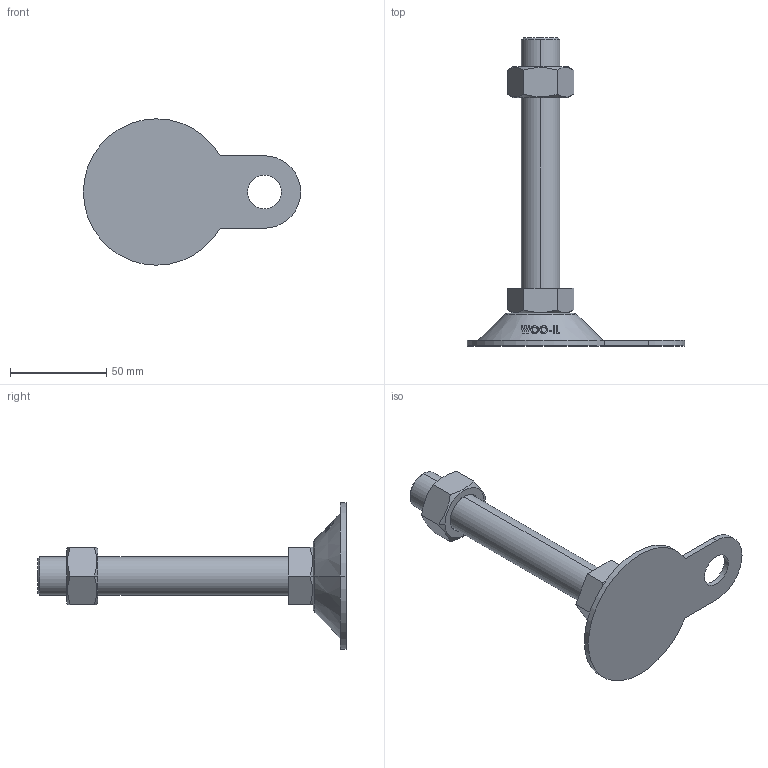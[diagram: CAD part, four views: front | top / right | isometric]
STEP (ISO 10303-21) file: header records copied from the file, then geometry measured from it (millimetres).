
FILE_DESCRIPTION (( 'STEP AP214' ), '1' );
FILE_NAME ('ABL76-M20-130.step', '2021-02-05T04:20:41', ( '' ), ( '' ), 'SwSTEP 2.0', 'SolidWorks 2019', '' );
FILE_SCHEMA (( 'AUTOMOTIVE_DESIGN' ));
Length unit declared in the file: millimetre
Products named in the file (2): ABL76-M20-130
Bounding box: 112.8 x 160 x 76 mm (x, y, z)
Volume: 103718.8 mm3; surface area: 26342.3 mm2
Topology: 2 solids, 2 shells, 128 faces, 325 edges, 212 vertices
Faces by surface type: plane 48, cylinder 38, cone 22, bspline 18, torus 2
Entity records: 5487 total; most frequent: CARTESIAN_POINT 2601, ORIENTED_EDGE 650, DIRECTION 473, EDGE_CURVE 325, VERTEX_POINT 212, AXIS2_PLACEMENT_3D 176, EDGE_LOOP 143, B_SPLINE_CURVE_WITH_KNOTS 140
